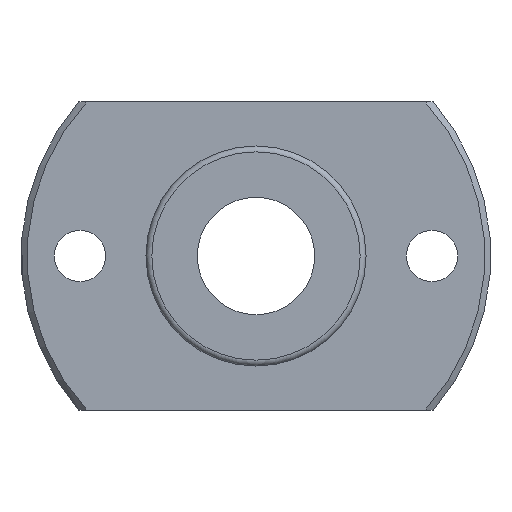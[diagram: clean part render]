
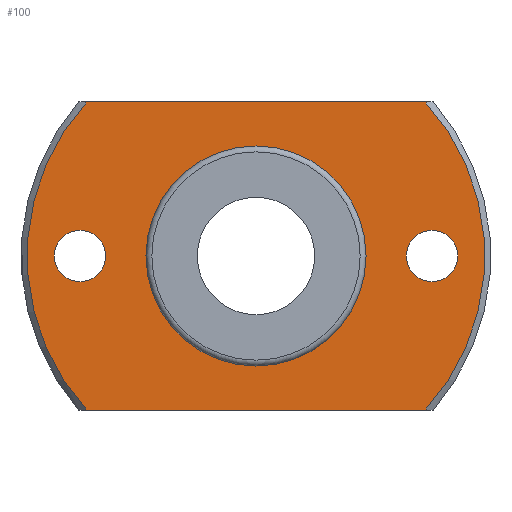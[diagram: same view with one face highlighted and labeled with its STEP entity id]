
A CAD part, left-side view. The second image highlights one B-rep face of the part: STEP entity #100.
In plain terms, the highlighted planar face has unit normal (-1, 0, 0).
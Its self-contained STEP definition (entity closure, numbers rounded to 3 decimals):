
#100=ADVANCED_FACE('',(#173,#174,#175,#176),#177,.T.);
#173=FACE_BOUND('',#250,.T.);
#174=FACE_BOUND('',#251,.T.);
#175=FACE_BOUND('',#252,.T.);
#176=FACE_OUTER_BOUND('',#253,.T.);
#177=PLANE('',#254);
#250=EDGE_LOOP('',(#409));
#251=EDGE_LOOP('',(#410));
#252=EDGE_LOOP('',(#411));
#253=EDGE_LOOP('',(#412,#413,#414,#415));
#254=AXIS2_PLACEMENT_3D('',#416,#417,#418);
#409=ORIENTED_EDGE('',*,*,#468,.F.);
#410=ORIENTED_EDGE('',*,*,#453,.T.);
#411=ORIENTED_EDGE('',*,*,#467,.T.);
#412=ORIENTED_EDGE('',*,*,#469,.T.);
#413=ORIENTED_EDGE('',*,*,#426,.T.);
#414=ORIENTED_EDGE('',*,*,#442,.T.);
#415=ORIENTED_EDGE('',*,*,#463,.T.);
#416=CARTESIAN_POINT('',(-5.0,0.,11.475));
#417=DIRECTION('',(-1.0,0.,0.));
#418=DIRECTION('',(0.,-1.0,0.));
#426=EDGE_CURVE('',#470,#471,#472,.T.);
#442=EDGE_CURVE('',#471,#499,#500,.T.);
#453=EDGE_CURVE('',#520,#520,#521,.T.);
#463=EDGE_CURVE('',#499,#539,#540,.T.);
#467=EDGE_CURVE('',#545,#545,#546,.T.);
#468=EDGE_CURVE('',#547,#547,#548,.T.);
#469=EDGE_CURVE('',#539,#470,#549,.T.);
#470=VERTEX_POINT('',#550);
#471=VERTEX_POINT('',#551);
#472=LINE('',#552,#553);
#499=VERTEX_POINT('',#600);
#500=CIRCLE('',#601,15.6);
#520=VERTEX_POINT('',#624);
#521=CIRCLE('',#625,1.75);
#539=VERTEX_POINT('',#644);
#540=LINE('',#645,#646);
#545=VERTEX_POINT('',#657);
#546=CIRCLE('',#658,1.75);
#547=VERTEX_POINT('',#659);
#548=CIRCLE('',#660,7.35);
#549=CIRCLE('',#661,15.6);
#550=CARTESIAN_POINT('',(-5.0,11.537,-10.5));
#551=CARTESIAN_POINT('',(-5.0,-11.537,-10.5));
#552=CARTESIAN_POINT('',(-5.0,0.,-10.5));
#553=VECTOR('',#662,1.0);
#600=CARTESIAN_POINT('',(-5.0,-11.537,10.5));
#601=AXIS2_PLACEMENT_3D('',#683,#684,#685);
#624=CARTESIAN_POINT('',(-5.0,10.25,0.));
#625=AXIS2_PLACEMENT_3D('',#713,#714,#715);
#644=CARTESIAN_POINT('',(-5.0,11.537,10.5));
#645=CARTESIAN_POINT('',(-5.0,0.,10.5));
#646=VECTOR('',#741,1.0);
#657=CARTESIAN_POINT('',(-5.0,-13.75,0.));
#658=AXIS2_PLACEMENT_3D('',#745,#746,#747);
#659=CARTESIAN_POINT('',(-5.0,0.,7.35));
#660=AXIS2_PLACEMENT_3D('',#748,#749,#750);
#661=AXIS2_PLACEMENT_3D('',#751,#752,#753);
#662=DIRECTION('',(0.,-1.0,0.0));
#683=CARTESIAN_POINT('',(-5.0,0.,0.));
#684=DIRECTION('',(-1.0,0.,0.));
#685=DIRECTION('',(0.,0.0,1.0));
#713=CARTESIAN_POINT('',(-5.0,12.0,0.));
#714=DIRECTION('',(1.0,0.,0.));
#715=DIRECTION('',(0.,1.0,0.));
#741=DIRECTION('',(0.,1.0,0.0));
#745=CARTESIAN_POINT('',(-5.0,-12.0,0.));
#746=DIRECTION('',(1.0,0.,0.));
#747=DIRECTION('',(0.,1.0,0.));
#748=CARTESIAN_POINT('',(-5.0,0.,0.));
#749=DIRECTION('',(-1.0,0.,0.));
#750=DIRECTION('',(0.,0.0,1.0));
#751=CARTESIAN_POINT('',(-5.0,0.,0.));
#752=DIRECTION('',(-1.0,0.,0.));
#753=DIRECTION('',(0.,0.0,1.0));
